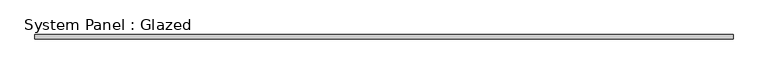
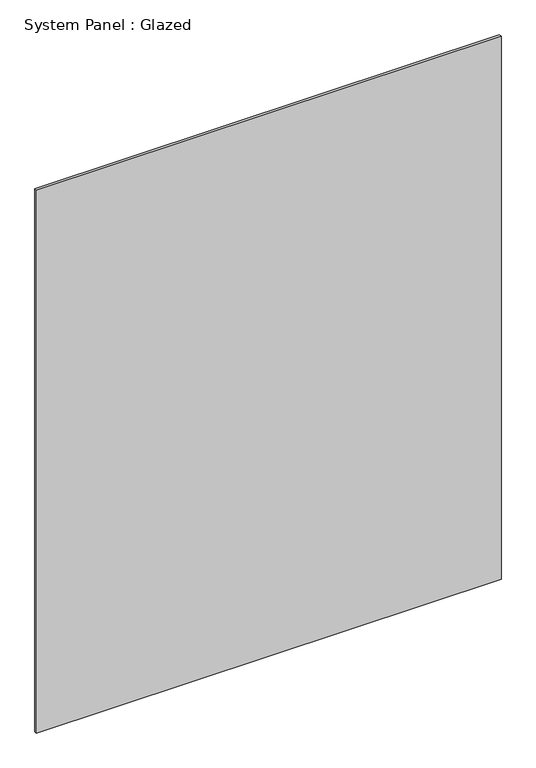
"""IFC4 building model written with IfcOpenShell, lengths in millimetres: plate geometry, System Panel : Glazed."""

from ifc_helpers import new_model, si_unit, origin, origin_with_axes, place, context, project, spatial, polyline, outline, extrude, source, transform, mapped, element, save


def system_panel_glazed_7061aa21(model_context):
    return source(origin(), model_context, "Body", "SweptSolid", [
        extrude(outline(polyline([(850.0, 0.0), (-850.0, 0.0), (-850.0, 10.0), (850.0, 10.0), (850.0, 0.0)])), origin_with_axes(), (0.0, 0.0, 1.0), 2100.0),
    ])


if __name__ == "__main__":
    model = new_model("IFC4")
    model_context = context("Model", 3, world=origin())
    ifc_project = project(units=[si_unit("LENGTHUNIT", "METRE", prefix="MILLI")], contexts=[model_context])
    site = spatial("IfcSite", under=ifc_project)
    building = spatial("IfcBuilding", under=site)
    placement = place(None, origin())
    system_panel_glazed_shape = system_panel_glazed_7061aa21(model_context)
    element("IfcPlate", 1, ObjectType="System Panel : Glazed", at=placement, inside=building, context=model_context, shape_type="MappedRepresentation", body=[
        mapped(system_panel_glazed_shape, transform((0.0, 0.0, 0.0), x_axis=(1.0, 0.0, 0.0), y_axis=(0.0, 1.0, 0.0), z_axis=(0.0, 0.0, 1.0))),
    ])
    save(model, "model.ifc")
